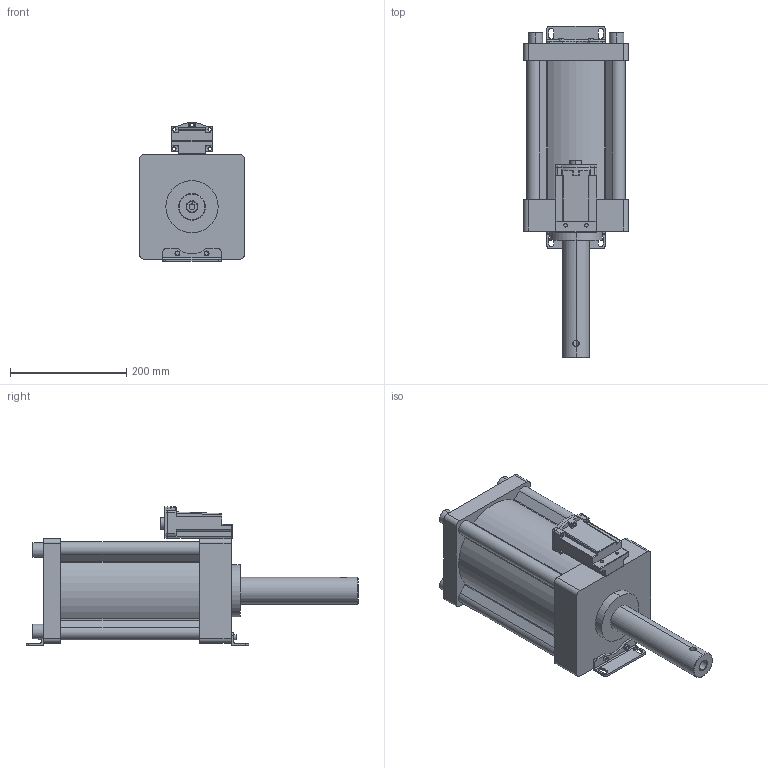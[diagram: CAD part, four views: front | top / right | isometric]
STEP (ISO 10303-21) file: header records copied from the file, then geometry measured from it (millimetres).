
FILE_DESCRIPTION (( 'STEP AP203' ), '1' );
FILE_NAME ('MHA1628N120.STEP', '2016-03-19T03:47:43', ( 'WIN' ), ( '' ), 'SwSTEP 2.0', 'SolidWorks 2014', '' );
FILE_SCHEMA (( 'CONFIG_CONTROL_DESIGN' ));
Length unit declared in the file: millimetre
Products named in the file (1): MHA1628N120
Bounding box: 180 x 571 x 238.97 mm (x, y, z)
Surface area: 648189.1 mm2 (no closed solid volume)
Topology: 0 solids, 6 shells, 412 faces, 1045 edges, 668 vertices
Faces by surface type: cylinder 192, plane 185, cone 20, sphere 8, torus 5, bspline 2
Entity records: 13012 total; most frequent: CARTESIAN_POINT 2749, DIRECTION 2208, ORIENTED_EDGE 2043, EDGE_CURVE 1033, AXIS2_PLACEMENT_3D 797, VERTEX_POINT 668, LINE 614, VECTOR 614
